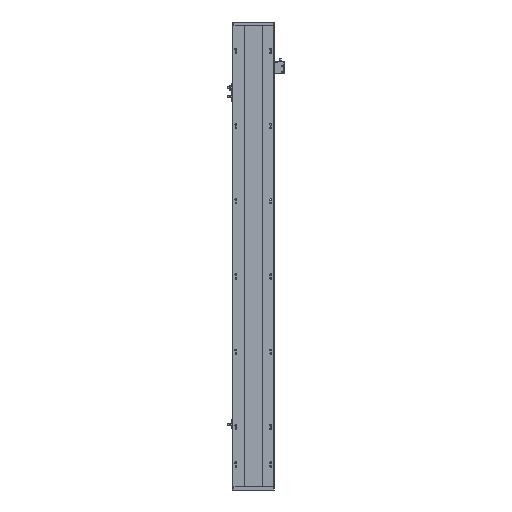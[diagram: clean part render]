
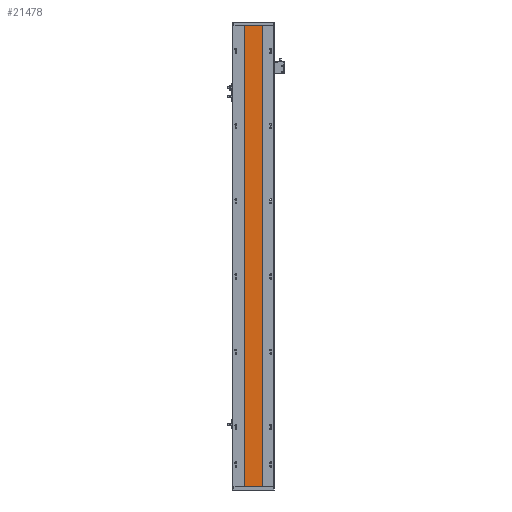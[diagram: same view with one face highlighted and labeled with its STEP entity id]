
A CAD part, front view. The second image highlights one B-rep face of the part: STEP entity #21478.
In plain terms, the highlighted planar face has unit normal (0, -1, 0).
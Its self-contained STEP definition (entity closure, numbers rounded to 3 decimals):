
#629 = LINE ( 'NONE', #27481, #27745 ) ;
#684 = AXIS2_PLACEMENT_3D ( 'NONE', #15818, #3042, #16113 ) ;
#847 = ORIENTED_EDGE ( 'NONE', *, *, #20722, .F. ) ;
#1060 = VECTOR ( 'NONE', #1423, 1000. ) ;
#1254 = EDGE_CURVE ( 'NONE', #21788, #7129, #6838, .T. ) ;
#1423 = DIRECTION ( 'NONE',  ( 1., 0., 0. ) ) ;
#1698 = CARTESIAN_POINT ( 'NONE',  ( 0., 115.96, 1324. ) ) ;
#1887 = DIRECTION ( 'NONE',  ( 0., 0., -1. ) ) ;
#2716 = CARTESIAN_POINT ( 'NONE',  ( 183.063, 115.96, 1324. ) ) ;
#3042 = DIRECTION ( 'NONE',  ( 0., 1., 0. ) ) ;
#3951 = DIRECTION ( 'NONE',  ( 1., 0., 0. ) ) ;
#4566 = EDGE_CURVE ( 'NONE', #7129, #5297, #15120, .T. ) ;
#5297 = VERTEX_POINT ( 'NONE', #10099 ) ;
#6838 = LINE ( 'NONE', #27565, #11879 ) ;
#7129 = VERTEX_POINT ( 'NONE', #8143 ) ;
#8143 = CARTESIAN_POINT ( 'NONE',  ( 133.07, 115.96, 0. ) ) ;
#8335 = EDGE_CURVE ( 'NONE', #21788, #12464, #9637, .T. ) ;
#9637 = LINE ( 'NONE', #1698, #23316 ) ;
#9706 = ORIENTED_EDGE ( 'NONE', *, *, #1254, .T. ) ;
#10099 = CARTESIAN_POINT ( 'NONE',  ( 183.063, 115.96, 0. ) ) ;
#11879 = VECTOR ( 'NONE', #1887, 1000. ) ;
#12464 = VERTEX_POINT ( 'NONE', #2716 ) ;
#12635 = DIRECTION ( 'NONE',  ( 0., 0., -1. ) ) ;
#12660 = CARTESIAN_POINT ( 'NONE',  ( 133.07, 115.96, 1324. ) ) ;
#14275 = ORIENTED_EDGE ( 'NONE', *, *, #8335, .F. ) ;
#14493 = ORIENTED_EDGE ( 'NONE', *, *, #4566, .T. ) ;
#15120 = LINE ( 'NONE', #15429, #1060 ) ;
#15429 = CARTESIAN_POINT ( 'NONE',  ( 0., 115.96, 0. ) ) ;
#15818 = CARTESIAN_POINT ( 'NONE',  ( 0., 115.96, 1324. ) ) ;
#16113 = DIRECTION ( 'NONE',  ( -1., 0., 0. ) ) ;
#18641 = EDGE_LOOP ( 'NONE', ( #14493, #847, #14275, #9706 ) ) ;
#20722 = EDGE_CURVE ( 'NONE', #12464, #5297, #629, .T. ) ;
#21478 = ADVANCED_FACE ( 'NONE', ( #22355 ), #26769, .F. ) ;
#21788 = VERTEX_POINT ( 'NONE', #12660 ) ;
#22355 = FACE_OUTER_BOUND ( 'NONE', #18641, .T. ) ;
#23316 = VECTOR ( 'NONE', #3951, 1000. ) ;
#26769 = PLANE ( 'NONE',  #684 ) ;
#27481 = CARTESIAN_POINT ( 'NONE',  ( 183.063, 115.96, 1324. ) ) ;
#27565 = CARTESIAN_POINT ( 'NONE',  ( 133.07, 115.96, 1324. ) ) ;
#27745 = VECTOR ( 'NONE', #12635, 1000. ) ;
